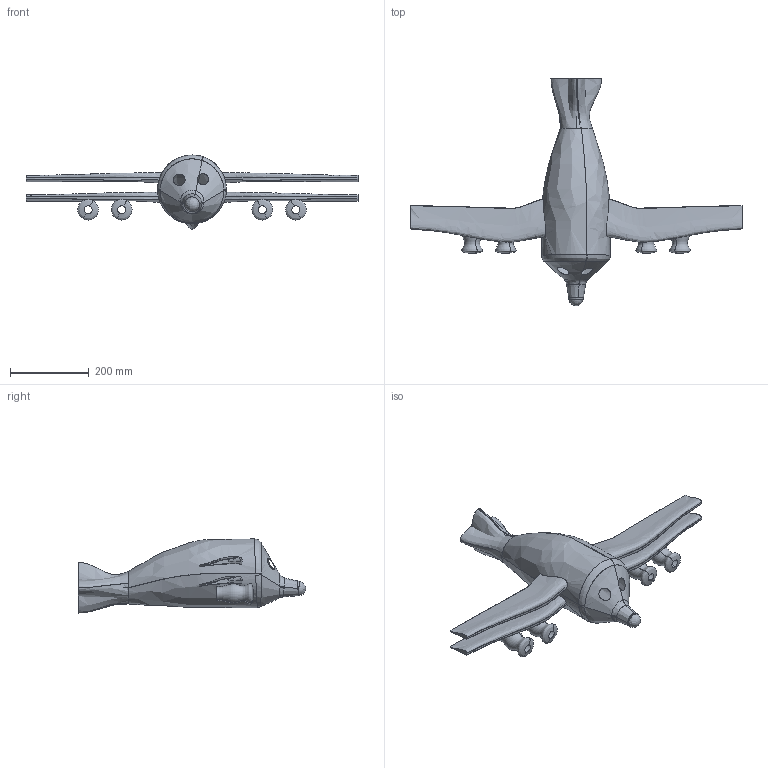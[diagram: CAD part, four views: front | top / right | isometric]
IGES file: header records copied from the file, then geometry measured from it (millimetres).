
Start section: START RECORD GO HERE.
Global section: file name: Flugzeug.igs; native system: IBM CATIA IGES - CATIA Version 5 Release 16 ; preprocessor: CATIA Version 5 Release 16 ; author: bbrockma; organization: CAT-DOM; date: 20060102.151923; units: millimetre
Bounding box: 845 x 578.57 x 188.69 mm (x, y, z)
Surface area: 560569.1 mm2 (no closed solid volume)
Topology: 0 solids, 0 shells, 65 faces, 315 edges, 315 vertices
Faces by surface type: bspline 38, extrusion 12, revolution 9, plane 6
